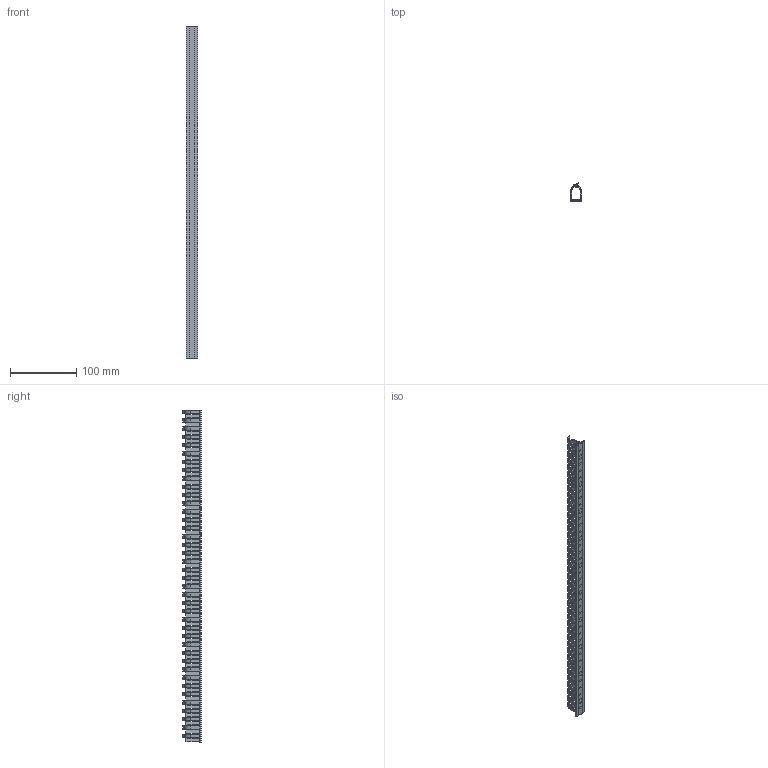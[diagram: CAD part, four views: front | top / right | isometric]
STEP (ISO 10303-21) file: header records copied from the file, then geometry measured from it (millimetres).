
FILE_DESCRIPTION(('Open CASCADE Model'),'2;1');
FILE_NAME('Open CASCADE Shape Model','2026-02-10T10:58:47',('Author'),( 'Open CASCADE'),'Open CASCADE STEP processor 7.8','Open CASCADE 7.8' ,'Unknown');
FILE_SCHEMA(('AUTOMOTIVE_DESIGN { 1 0 10303 214 1 1 1 1 }'));
Length unit declared in the file: millimetre
Products named in the file (3): Compound1; Solid1; Solid2
Assembly tree (2 placements, depth 2):
  Compound1
    Solid1
    Solid2
Bounding box: 17.7 x 27.93 x 500 mm (x, y, z)
Volume: 31233.2 mm3; surface area: 56617.1 mm2
Topology: 2 solids, 2 shells, 1138 faces, 3242 edges, 2108 vertices
Faces by surface type: plane 730, cylinder 320, cone 88
Entity records: 37042 total; most frequent: CARTESIAN_POINT 6491, ORIENTED_EDGE 6484, DIRECTION 6340, EDGE_CURVE 3242, LINE 2426, VECTOR 2426, VERTEX_POINT 2108, AXIS2_PLACEMENT_3D 1957
